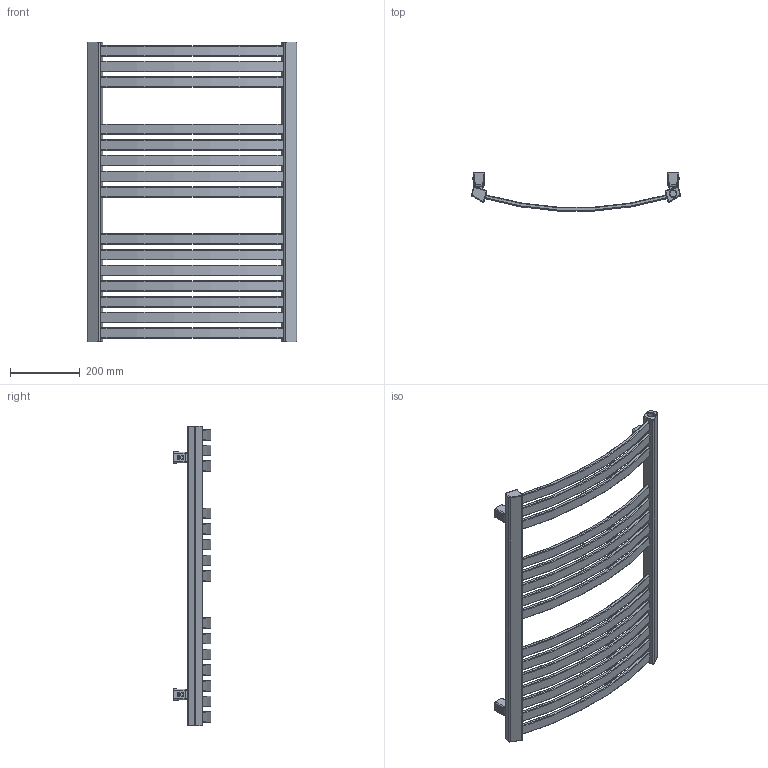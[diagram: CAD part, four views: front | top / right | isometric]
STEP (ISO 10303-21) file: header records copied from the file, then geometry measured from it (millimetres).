
FILE_DESCRIPTION((''),'2;1');
FILE_NAME('Z:\R\G\P\RGPH02 - Grzejnik Dexter\Work\Inventor\Marketing\Autocad\DE-860-600 SX.stp','2012-07-12T13:31:31',('KurKa'),(''),'Autodesk Inventor 2012','Autodesk Inventor 2012','');
FILE_SCHEMA(('AUTOMOTIVE_DESIGN { 1 0 10303 214 1 1 1 1 }'));
Length unit declared in the file: millimetre
Products named in the file (10): DE-860-600 SX; DE-860-600-1-5-8; MKT42-00-B v0.2; MKT42-01 v0; MKT42-02-B v0; PN_M-82019; M6; NK-S10-M5-3-R; PN-87/M-82302 M5 x 22; PN-87/M-82302  M5 x 12; MKT42-03 v0.2
Assembly tree (12 placements, depth 3):
  DE-860-600 SX
    DE-860-600-1-5-8
    MKT42-00-B v0.2  x4
      MKT42-01 v0
      MKT42-02-B v0
      PN_M-82019; M6
      NK-S10-M5-3-R
      PN-87/M-82302 M5 x 22
      PN-87/M-82302  M5 x 12
      MKT42-03 v0.2
Bounding box: 599.87 x 107.95 x 860 mm (x, y, z)
Volume: 4564117.6 mm3; surface area: 932078.3 mm2
Topology: 29 solids, 29 shells, 1557 faces, 4231 edges, 2753 vertices
Faces by surface type: plane 1013, cylinder 357, torus 103, cone 44, bspline 40
Full cylindrical faces by diameter (mm): 4.134 x4, 5 x8, 5.5 x12, 6.3 x4, 8.5 x8, 10 x4, 18 x4, 18.631 x3
Entity records: 17224 total; most frequent: CARTESIAN_POINT 3431, DIRECTION 2912, ORIENTED_EDGE 2784, EDGE_CURVE 1392, AXIS2_PLACEMENT_3D 1041, VERTEX_POINT 918, VECTOR 830, LINE 830
